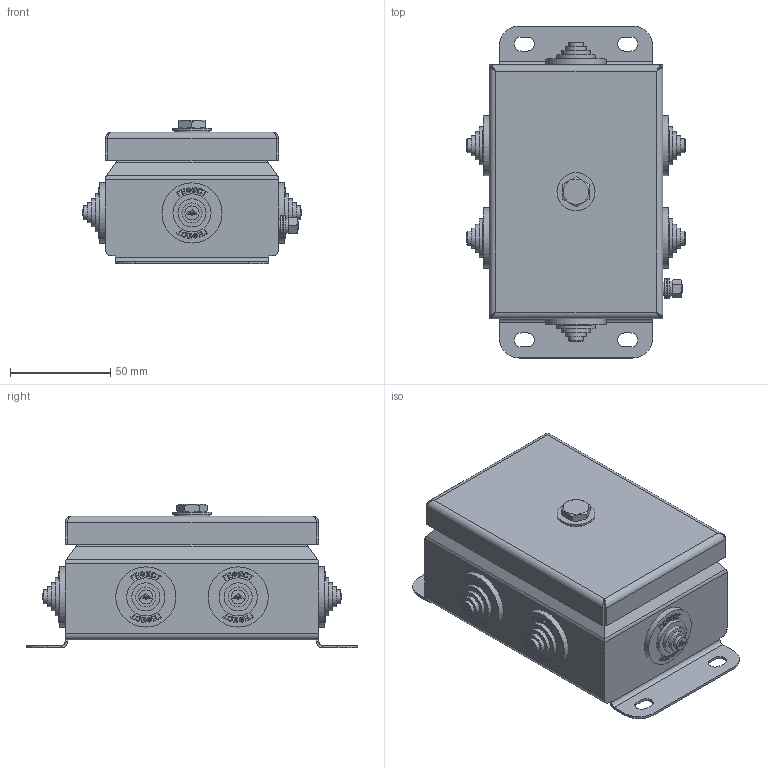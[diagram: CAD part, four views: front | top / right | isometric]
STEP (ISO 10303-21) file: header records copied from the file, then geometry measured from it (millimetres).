
FILE_DESCRIPTION(('STEP AP203'), '1');
FILE_NAME('Êîðîáêà 0812 IP55', '', ('UNSPECIFIED'), ('UNSPECIFIED'), 'ASCON STEP Converter 1.6', 'ASCON Math Kernel', '');
FILE_SCHEMA(('CONFIG_CONTROL_DESIGN'));
Length unit declared in the file: millimetre
Bounding box: 109 x 165.5 x 71.7 mm (x, y, z)
Volume: 671850.6 mm3; surface area: 70567.7 mm2
Topology: 1 solids, 1 shells, 1241 faces, 3196 edges, 2103 vertices
Faces by surface type: plane 913, extrusion 216, cylinder 91, cone 11, bspline 8, torus 2
Full cylindrical faces by diameter (mm): 3.7 x1, 5 x2, 5.5 x2, 6.5 x1, 7 x6, 10 x8, 14 x6, 17 x1, 19 x7, 30 x6
Entity records: 50499 total; most frequent: CARTESIAN_POINT 11366, ORIENTED_EDGE 6298, DIRECTION 5036, EDGE_CURVE 3149, VECTOR 2694, LINE 2478, VERTEX_POINT 2103, EDGE_LOOP 1444
